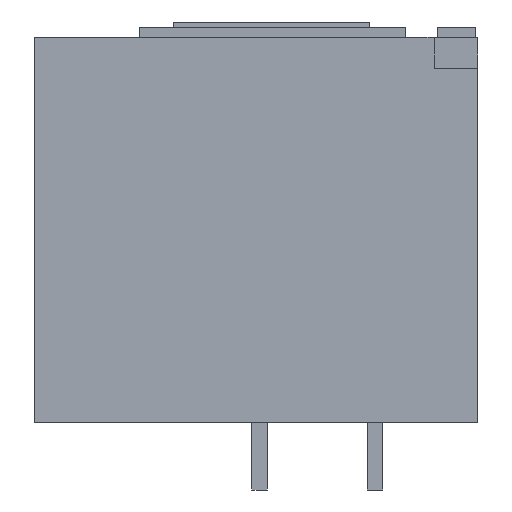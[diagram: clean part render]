
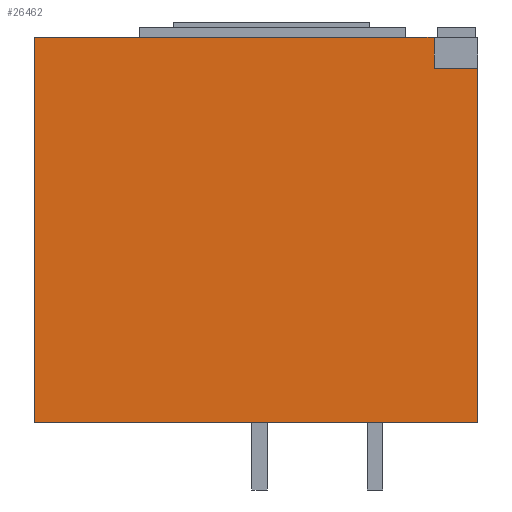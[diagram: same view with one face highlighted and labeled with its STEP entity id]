
A CAD part, left-side view. The second image highlights one B-rep face of the part: STEP entity #26462.
In plain terms, the highlighted planar face has unit normal (-1, 0, 0).
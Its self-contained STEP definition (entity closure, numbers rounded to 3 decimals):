
#306 = ORIENTED_EDGE ( 'NONE', *, *, #19982, .F. ) ;
#1169 = EDGE_CURVE ( 'NONE', #20539, #11813, #13008, .T. ) ;
#3901 = VECTOR ( 'NONE', #14845, 1000. ) ;
#4565 = VECTOR ( 'NONE', #27048, 1000. ) ;
#5064 = DIRECTION ( 'NONE',  ( 0., 0., 1. ) ) ;
#5481 = CARTESIAN_POINT ( 'NONE',  ( -262.5, 0., -373.5 ) ) ;
#8884 = CARTESIAN_POINT ( 'NONE',  ( -262.5, 42.5, -373.5 ) ) ;
#9852 = CARTESIAN_POINT ( 'NONE',  ( -262.5, 0., -373.5 ) ) ;
#11813 = VERTEX_POINT ( 'NONE', #29727 ) ;
#12295 = VERTEX_POINT ( 'NONE', #38538 ) ;
#12993 = EDGE_CURVE ( 'NONE', #31141, #12295, #33032, .T. ) ;
#13008 = LINE ( 'NONE', #27719, #4565 ) ;
#13053 = DIRECTION ( 'NONE',  ( 0., -1., 0. ) ) ;
#13285 = EDGE_CURVE ( 'NONE', #11813, #36869, #34491, .T. ) ;
#13606 = LINE ( 'NONE', #32641, #37288 ) ;
#14845 = DIRECTION ( 'NONE',  ( 0., -1., 0. ) ) ;
#16433 = VECTOR ( 'NONE', #5064, 1000. ) ;
#18111 = VECTOR ( 'NONE', #36702, 1000. ) ;
#19982 = EDGE_CURVE ( 'NONE', #20539, #33470, #25537, .T. ) ;
#20539 = VERTEX_POINT ( 'NONE', #33920 ) ;
#20596 = LINE ( 'NONE', #24000, #3901 ) ;
#21378 = AXIS2_PLACEMENT_3D ( 'NONE', #9852, #31500, #13053 ) ;
#22764 = EDGE_CURVE ( 'NONE', #31141, #36869, #20596, .T. ) ;
#23607 = CARTESIAN_POINT ( 'NONE',  ( -262.5, 430., -373.5 ) ) ;
#24000 = CARTESIAN_POINT ( 'NONE',  ( -262.5, 430.001, -30. ) ) ;
#24115 = CARTESIAN_POINT ( 'NONE',  ( -262.5, 42.5, -30. ) ) ;
#24487 = ORIENTED_EDGE ( 'NONE', *, *, #22764, .F. ) ;
#25537 = LINE ( 'NONE', #23607, #16433 ) ;
#26243 = ORIENTED_EDGE ( 'NONE', *, *, #13285, .T. ) ;
#26462 = ADVANCED_FACE ( 'NONE', ( #26672 ), #28381, .T. ) ;
#26672 = FACE_OUTER_BOUND ( 'NONE', #31098, .T. ) ;
#27048 = DIRECTION ( 'NONE',  ( 0., -1., 0. ) ) ;
#27719 = CARTESIAN_POINT ( 'NONE',  ( -262.5, 0., -373.5 ) ) ;
#28381 = PLANE ( 'NONE',  #21378 ) ;
#29578 = ORIENTED_EDGE ( 'NONE', *, *, #38277, .F. ) ;
#29727 = CARTESIAN_POINT ( 'NONE',  ( -262.5, 0., -373.5 ) ) ;
#30705 = DIRECTION ( 'NONE',  ( 0., 0., 1. ) ) ;
#31098 = EDGE_LOOP ( 'NONE', ( #29578, #306, #38421, #26243, #24487, #33254 ) ) ;
#31141 = VERTEX_POINT ( 'NONE', #24115 ) ;
#31500 = DIRECTION ( 'NONE',  ( -1., 0., 0. ) ) ;
#32066 = VECTOR ( 'NONE', #30705, 1000. ) ;
#32641 = CARTESIAN_POINT ( 'NONE',  ( -262.5, 0., 0. ) ) ;
#33032 = LINE ( 'NONE', #8884, #32066 ) ;
#33254 = ORIENTED_EDGE ( 'NONE', *, *, #12993, .T. ) ;
#33470 = VERTEX_POINT ( 'NONE', #35076 ) ;
#33920 = CARTESIAN_POINT ( 'NONE',  ( -262.5, 430., -373.5 ) ) ;
#34491 = LINE ( 'NONE', #5481, #18111 ) ;
#35076 = CARTESIAN_POINT ( 'NONE',  ( -262.5, 430., 0. ) ) ;
#36702 = DIRECTION ( 'NONE',  ( 0., 0., 1. ) ) ;
#36869 = VERTEX_POINT ( 'NONE', #39285 ) ;
#37288 = VECTOR ( 'NONE', #39160, 1000. ) ;
#38277 = EDGE_CURVE ( 'NONE', #33470, #12295, #13606, .T. ) ;
#38421 = ORIENTED_EDGE ( 'NONE', *, *, #1169, .T. ) ;
#38538 = CARTESIAN_POINT ( 'NONE',  ( -262.5, 42.5, 0. ) ) ;
#39160 = DIRECTION ( 'NONE',  ( 0., -1., 0. ) ) ;
#39285 = CARTESIAN_POINT ( 'NONE',  ( -262.5, 0., -30. ) ) ;
